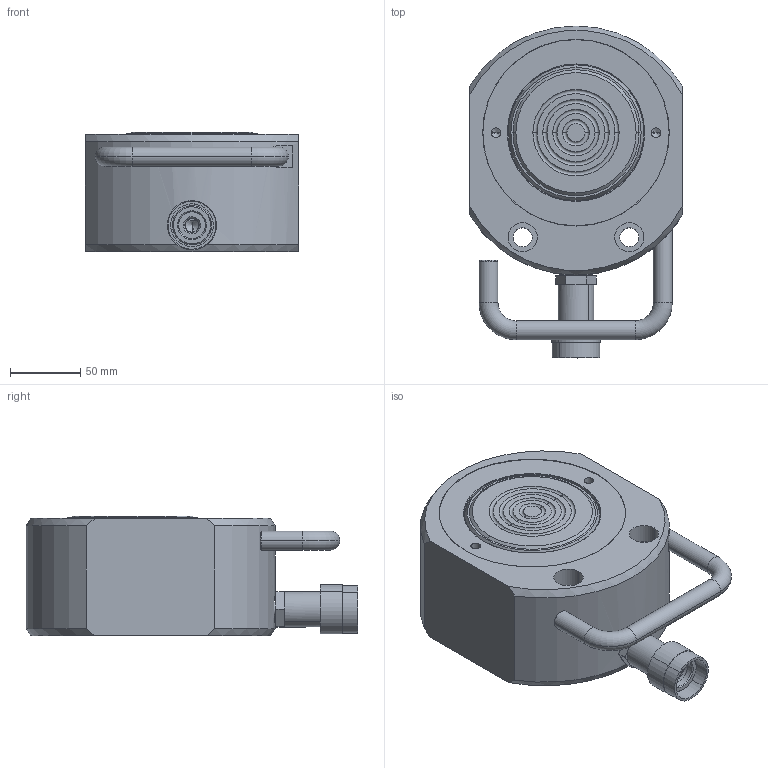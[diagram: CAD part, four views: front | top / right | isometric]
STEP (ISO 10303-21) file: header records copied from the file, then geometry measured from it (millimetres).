
FILE_DESCRIPTION((''),'2;1');
FILE_NAME('RSM-1000_SW0001','2016-02-22T',('mike.ward'),(''),'CREO PARAMETRIC BY PTC INC, 2015290','CREO PARAMETRIC BY PTC INC, 2015290','');
FILE_SCHEMA(('CONFIG_CONTROL_DESIGN'));
Length unit declared in the file: inch
Products named in the file (1): RSM-1000_SW0001
Bounding box: 152.4 x 236.99 x 85.6 mm (x, y, z)
Surface area: 132305.5 mm2 (no closed solid volume)
Topology: 0 solids, 11 shells, 138 faces, 352 edges, 233 vertices
Faces by surface type: plane 46, cylinder 45, cone 32, torus 15
Entity records: 4320 total; most frequent: CARTESIAN_POINT 867, DIRECTION 795, ORIENTED_EDGE 604, EDGE_CURVE 344, AXIS2_PLACEMENT_3D 328, VERTEX_POINT 233, CIRCLE 190, EDGE_LOOP 168
